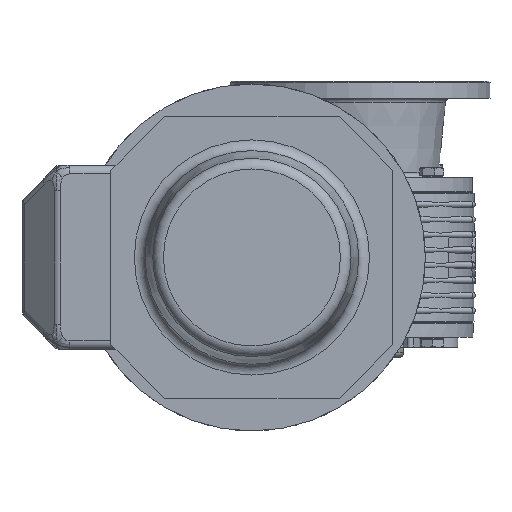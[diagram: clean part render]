
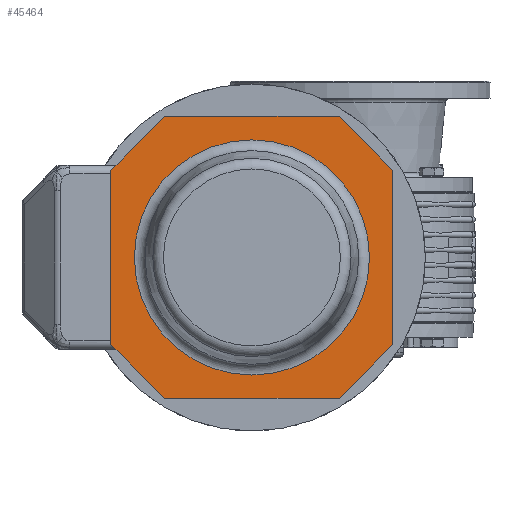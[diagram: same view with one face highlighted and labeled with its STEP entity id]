
A CAD part, left-side view. The second image highlights one B-rep face of the part: STEP entity #45464.
In plain terms, the highlighted planar face has unit normal (-1, 0, 0) as drawn and (1, 0, 0) by its records, which use the part's own axes.
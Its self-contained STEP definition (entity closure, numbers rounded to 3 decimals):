
#45358=CARTESIAN_POINT('',(209.0,0.,54.212));
#45359=VERTEX_POINT('',#45358);
#45360=CARTESIAN_POINT('',(209.0,0.0,0.0));
#45361=DIRECTION('',(1.0,0.0,0.0));
#45362=DIRECTION('',(0.0,0.0,-1.0));
#45363=AXIS2_PLACEMENT_3D('',#45360,#45361,#45362);
#45364=CIRCLE('',#45363,54.212);
#45365=EDGE_CURVE('',#45359,#45359,#45364,.T.);
#45390=CARTESIAN_POINT('',(209.0,28.6,0.0));
#45391=DIRECTION('',(1.0,0.0,0.0));
#45392=DIRECTION('',(0.0,0.0,-1.0));
#45393=AXIS2_PLACEMENT_3D('',#45390,#45391,#45392);
#45394=PLANE('',#45393);
#45395=CARTESIAN_POINT('',(209.0,-65.0,40.251));
#45396=VERTEX_POINT('',#45395);
#45397=CARTESIAN_POINT('',(209.0,-40.251,65.0));
#45398=VERTEX_POINT('',#45397);
#45399=CARTESIAN_POINT('',(209.0,-65.0,40.251));
#45400=DIRECTION('',(0.0,0.707,0.707));
#45401=VECTOR('',#45400,35.);
#45402=LINE('',#45399,#45401);
#45403=EDGE_CURVE('',#45396,#45398,#45402,.T.);
#45404=ORIENTED_EDGE('',*,*,#45403,.F.);
#45405=CARTESIAN_POINT('',(209.0,-65.0,-40.251));
#45406=VERTEX_POINT('',#45405);
#45407=CARTESIAN_POINT('',(209.0,-65.0,-40.251));
#45408=DIRECTION('',(0.0,0.0,1.0));
#45409=VECTOR('',#45408,80.503);
#45410=LINE('',#45407,#45409);
#45411=EDGE_CURVE('',#45406,#45396,#45410,.T.);
#45412=ORIENTED_EDGE('',*,*,#45411,.F.);
#45413=CARTESIAN_POINT('',(209.0,-40.251,-65.0));
#45414=VERTEX_POINT('',#45413);
#45415=CARTESIAN_POINT('',(209.0,-40.251,-65.0));
#45416=DIRECTION('',(0.0,-0.707,0.707));
#45417=VECTOR('',#45416,35.0);
#45418=LINE('',#45415,#45417);
#45419=EDGE_CURVE('',#45414,#45406,#45418,.T.);
#45420=ORIENTED_EDGE('',*,*,#45419,.F.);
#45421=CARTESIAN_POINT('',(209.0,40.251,-65.0));
#45422=VERTEX_POINT('',#45421);
#45423=CARTESIAN_POINT('',(209.0,40.251,-65.0));
#45424=DIRECTION('',(0.0,-1.0,0.0));
#45425=VECTOR('',#45424,80.503);
#45426=LINE('',#45423,#45425);
#45427=EDGE_CURVE('',#45422,#45414,#45426,.T.);
#45428=ORIENTED_EDGE('',*,*,#45427,.F.);
#45429=CARTESIAN_POINT('',(209.0,65.0,-40.251));
#45430=VERTEX_POINT('',#45429);
#45431=CARTESIAN_POINT('',(209.0,65.0,-40.251));
#45432=DIRECTION('',(0.0,-0.707,-0.707));
#45433=VECTOR('',#45432,35.0);
#45434=LINE('',#45431,#45433);
#45435=EDGE_CURVE('',#45430,#45422,#45434,.T.);
#45436=ORIENTED_EDGE('',*,*,#45435,.F.);
#45437=CARTESIAN_POINT('',(209.0,65.0,40.251));
#45438=VERTEX_POINT('',#45437);
#45439=CARTESIAN_POINT('',(209.0,65.0,40.251));
#45440=DIRECTION('',(0.0,0.0,-1.0));
#45441=VECTOR('',#45440,80.503);
#45442=LINE('',#45439,#45441);
#45443=EDGE_CURVE('',#45438,#45430,#45442,.T.);
#45444=ORIENTED_EDGE('',*,*,#45443,.F.);
#45445=CARTESIAN_POINT('',(209.0,40.251,65.0));
#45446=VERTEX_POINT('',#45445);
#45447=CARTESIAN_POINT('',(209.0,40.251,65.0));
#45448=DIRECTION('',(0.0,0.707,-0.707));
#45449=VECTOR('',#45448,35.0);
#45450=LINE('',#45447,#45449);
#45451=EDGE_CURVE('',#45446,#45438,#45450,.T.);
#45452=ORIENTED_EDGE('',*,*,#45451,.F.);
#45453=CARTESIAN_POINT('',(209.0,-40.251,65.0));
#45454=DIRECTION('',(0.0,1.0,0.0));
#45455=VECTOR('',#45454,80.503);
#45456=LINE('',#45453,#45455);
#45457=EDGE_CURVE('',#45398,#45446,#45456,.T.);
#45458=ORIENTED_EDGE('',*,*,#45457,.F.);
#45459=EDGE_LOOP('',(#45404,#45412,#45420,#45428,#45436,#45444,#45452,#45458));
#45460=FACE_OUTER_BOUND('',#45459,.T.);
#45461=ORIENTED_EDGE('',*,*,#45365,.F.);
#45462=EDGE_LOOP('',(#45461));
#45463=FACE_BOUND('',#45462,.T.);
#45464=ADVANCED_FACE('',(#45460,#45463),#45394,.T.);
